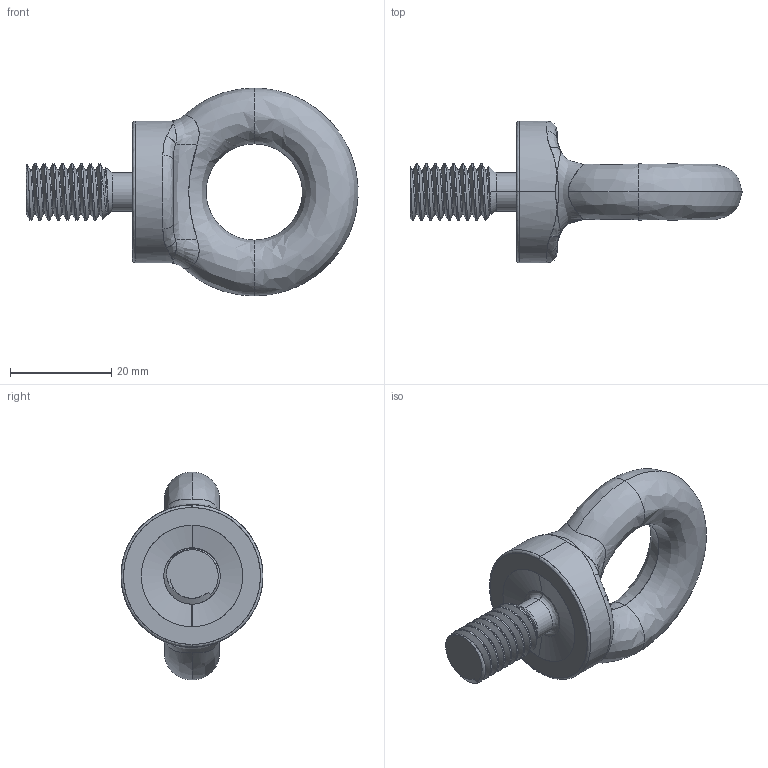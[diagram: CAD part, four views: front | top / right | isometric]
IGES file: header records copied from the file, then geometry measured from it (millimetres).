
Start section: SolidWorks IGES file using analytic representation for surfaces
Global section: file name: C:\Users\Brenton\Documents\Townley\Eye Bolts\Imperial\EBW437\EBW437.IGS; native system: SolidWorks 2012; preprocessor: SolidWorks 2012; author: Brenton; date: 140304.114216; units: millimetre
Bounding box: 65.48 x 28 x 41 mm (x, y, z)
Surface area: 5498.2 mm2 (no closed solid volume)
Topology: 0 solids, 0 shells, 60 faces, 1329 edges, 1321 vertices
Faces by surface type: bspline 34, revolution 26
